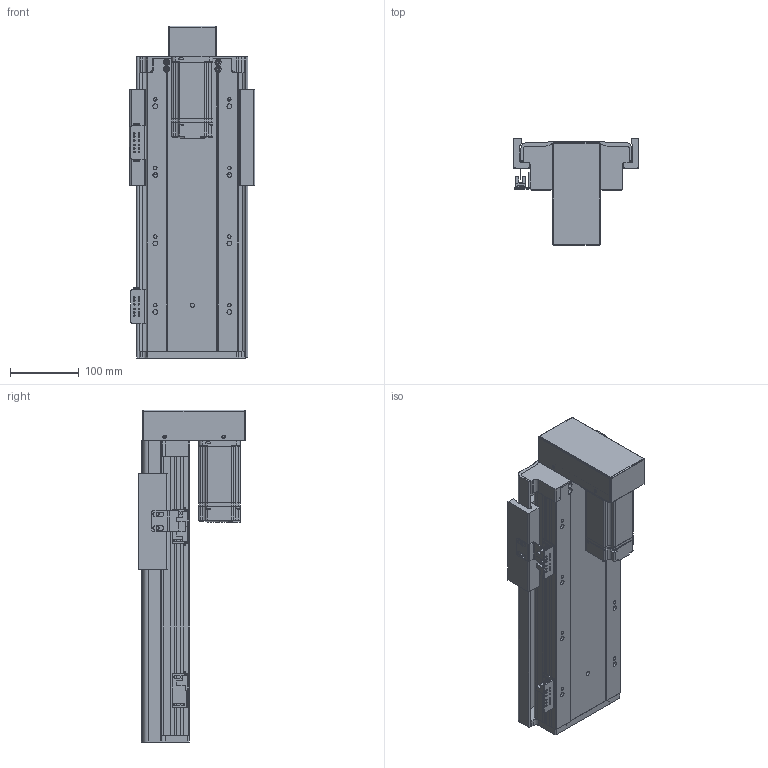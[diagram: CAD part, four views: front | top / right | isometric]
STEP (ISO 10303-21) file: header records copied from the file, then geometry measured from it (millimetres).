
FILE_DESCRIPTION (( 'STEP AP203' ), '1' );
FILE_NAME ('RY140FB-L2010-300-BK.SLDASM_200.step', '2021-02-23T02:28:34', ( '盈信电脑' ), ( '东莞市道滘镇水果街19号' ), 'SwSTEP 2.0', 'SolidWorks 2012', '' );
FILE_SCHEMA (( 'CONFIG_CONTROL_DESIGN' ));
Length unit declared in the file: millimetre
Products named in the file (17): RY140FB-300蛌殏倰第菁釱-BK_200; RY140FB-綴裔啣; RY140FB-L2010-300-BK.SLDASM_200; RY140FB-覜茼え; RY140直线电机感应器674光电安装座; RY140-674嫖萇耀輸; 覜茼ん674; RY140FB-300蛌殏奻裔啣-BK_200; RY140狟殏萇儂欶; RY140FB-20佪裝臏賑輸; RY140FB-狟殏萇儂假蚾啣; 侂狟400W侜督萇儂; RY140FB-转折电机端支撑座(7002); 15; 滅袉蝶18-24; 滅袉蝶18-10
Assembly tree (20 placements, depth 3):
  RY140FB-L2010-300-BK.SLDASM_200
    RY140FB-300蛌殏倰第菁釱-BK_200
    RY140FB-綴裔啣
    滅袉蝶18-24  x2
    滅袉蝶18-10
    RY140FB-转折电机端支撑座(7002)
    侂狟400W侜督萇儂
      15
    RY140狟殏萇儂欶
    RY140FB-狟殏萇儂假蚾啣
    RY140FB-20佪裝臏賑輸
    RY140FB-300蛌殏奻裔啣-BK_200
    RY140-674嫖萇耀輸
      覜茼ん674  x2
      RY140直线电机感应器674光电安装座
    RY140-674嫖萇耀輸
      RY140直线电机感应器674光电安装座
      覜茼ん674
    RY140FB-覜茼え
Bounding box: 183 x 156 x 484 mm (x, y, z)
Volume: 2473396.3 mm3; surface area: 765002.9 mm2
Topology: 17 solids, 17 shells, 1622 faces, 4397 edges, 2809 vertices
Faces by surface type: cylinder 741, plane 719, cone 134, bspline 28
Entity records: 48195 total; most frequent: CARTESIAN_POINT 9483, DIRECTION 7854, ORIENTED_EDGE 7574, EDGE_CURVE 3787, AXIS2_PLACEMENT_3D 2804, VERTEX_POINT 2477, VECTOR 2246, LINE 2246
